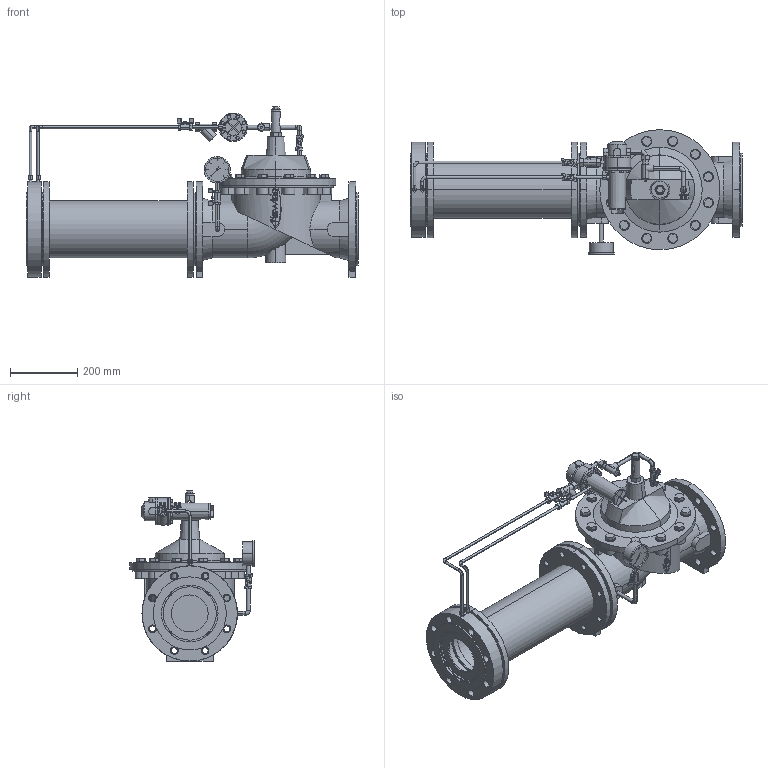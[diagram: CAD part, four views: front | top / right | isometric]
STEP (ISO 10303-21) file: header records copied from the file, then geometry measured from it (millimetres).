
FILE_DESCRIPTION(('STEP AP214'),'1');
FILE_NAME('1709 150 000.STP','2020-04-28T08:38:42',(' '),(' '),'Spatial InterOp 3D',' ',' ');
FILE_SCHEMA(('AUTOMOTIVE_DESIGN { 1 0 10303 214 1 1 1 1 }'));
Length unit declared in the file: millimetre
Products named in the file (1): 3D-Objekt
Bounding box: 990 x 371.5 x 508.3 mm (x, y, z)
Volume: 28408912.9 mm3; surface area: 2791139.3 mm2
Topology: 188 solids, 232 shells, 1430 faces, 3216 edges, 2211 vertices
Faces by surface type: plane 897, cylinder 469, torus 34, cone 26, bspline 4
Entity records: 44688 total; most frequent: CARTESIAN_POINT 8141, DIRECTION 7633, ORIENTED_EDGE 6240, EDGE_CURVE 3216, AXIS2_PLACEMENT_3D 2782, VERTEX_POINT 2211, LINE 2069, VECTOR 2069
